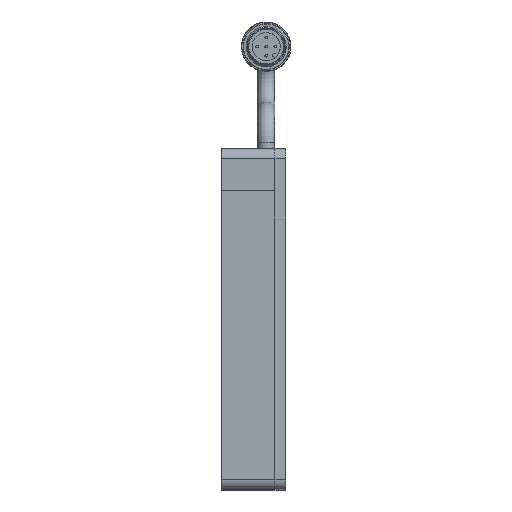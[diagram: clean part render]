
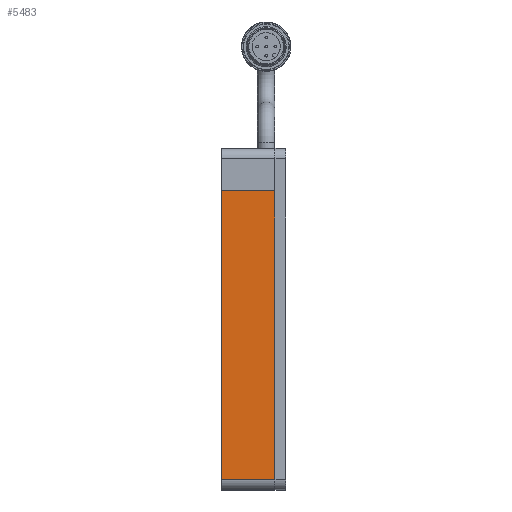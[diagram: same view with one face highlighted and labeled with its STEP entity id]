
A CAD part, left-side view. The second image highlights one B-rep face of the part: STEP entity #5483.
In plain terms, the highlighted planar face has unit normal (-1, 0, 0) as drawn and (0, 0, -1) by its records, which use the part's own axes.
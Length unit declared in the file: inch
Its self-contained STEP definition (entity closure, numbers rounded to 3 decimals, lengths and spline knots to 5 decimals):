
#413 = EDGE_LOOP ( 'NONE', ( #2997, #3607, #11618, #13208 ) ) ;
#649 = DIRECTION ( 'NONE',  ( 0., -1., 0. ) ) ;
#1567 = PLANE ( 'NONE',  #13765 ) ;
#1887 = VERTEX_POINT ( 'NONE', #7742 ) ;
#2716 = CARTESIAN_POINT ( 'NONE',  ( 1.875, 0.3125, -0.25 ) ) ;
#2997 = ORIENTED_EDGE ( 'NONE', *, *, #13191, .F. ) ;
#3511 = CARTESIAN_POINT ( 'NONE',  ( -1.5, -0.3125, -0.25 ) ) ;
#3538 = LINE ( 'NONE', #12904, #10878 ) ;
#3607 = ORIENTED_EDGE ( 'NONE', *, *, #13652, .T. ) ;
#4186 = VECTOR ( 'NONE', #11216, 39.37008 ) ;
#4316 = VECTOR ( 'NONE', #10074, 39.37008 ) ;
#4687 = VECTOR ( 'NONE', #649, 39.37008 ) ;
#5085 = LINE ( 'NONE', #2716, #4687 ) ;
#5483 = ADVANCED_FACE ( 'NONE', ( #14284 ), #1567, .F. ) ;
#6353 = EDGE_CURVE ( 'NONE', #12748, #9739, #14610, .T. ) ;
#6451 = VERTEX_POINT ( 'NONE', #14463 ) ;
#6967 = EDGE_CURVE ( 'NONE', #1887, #12748, #3538, .T. ) ;
#7742 = CARTESIAN_POINT ( 'NONE',  ( 1.875, -0.3125, -0.25 ) ) ;
#7956 = CARTESIAN_POINT ( 'NONE',  ( -2., 0.3125, -0.25 ) ) ;
#8066 = DIRECTION ( 'NONE',  ( -1., 0., 0. ) ) ;
#9739 = VERTEX_POINT ( 'NONE', #11824 ) ;
#10005 = LINE ( 'NONE', #7956, #4186 ) ;
#10074 = DIRECTION ( 'NONE',  ( 0., 1., 0. ) ) ;
#10878 = VECTOR ( 'NONE', #8066, 39.37008 ) ;
#10880 = DIRECTION ( 'NONE',  ( 0., 0., 1. ) ) ;
#11216 = DIRECTION ( 'NONE',  ( -1., 0., 0. ) ) ;
#11618 = ORIENTED_EDGE ( 'NONE', *, *, #6967, .T. ) ;
#11824 = CARTESIAN_POINT ( 'NONE',  ( -1.5, 0.3125, -0.25 ) ) ;
#12189 = CARTESIAN_POINT ( 'NONE',  ( -1.5, -0.3125, -0.25 ) ) ;
#12748 = VERTEX_POINT ( 'NONE', #3511 ) ;
#12904 = CARTESIAN_POINT ( 'NONE',  ( -2., -0.3125, -0.25 ) ) ;
#13136 = CARTESIAN_POINT ( 'NONE',  ( -2., 0.3125, -0.25 ) ) ;
#13191 = EDGE_CURVE ( 'NONE', #6451, #9739, #10005, .T. ) ;
#13208 = ORIENTED_EDGE ( 'NONE', *, *, #6353, .T. ) ;
#13652 = EDGE_CURVE ( 'NONE', #6451, #1887, #5085, .T. ) ;
#13765 = AXIS2_PLACEMENT_3D ( 'NONE', #13136, #10880, #14428 ) ;
#14284 = FACE_OUTER_BOUND ( 'NONE', #413, .T. ) ;
#14428 = DIRECTION ( 'NONE',  ( 1., 0., 0. ) ) ;
#14463 = CARTESIAN_POINT ( 'NONE',  ( 1.875, 0.3125, -0.25 ) ) ;
#14610 = LINE ( 'NONE', #12189, #4316 ) ;
